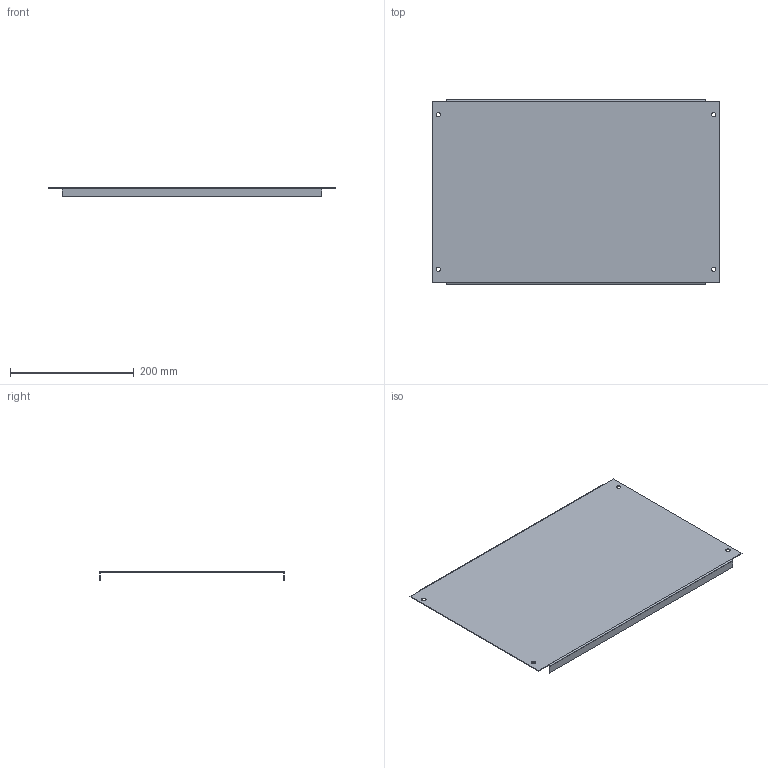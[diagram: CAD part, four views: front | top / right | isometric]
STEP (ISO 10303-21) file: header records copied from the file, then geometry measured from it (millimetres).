
FILE_DESCRIPTION (( 'STEP AP203' ), '1' );
FILE_NAME ('MB 30.50 Ïàíåëü ìîäóëüíàÿ.STEP', '2012-11-21T07:13:01', ( 'system' ), ( '' ), 'SwSTEP 2.0', 'SolidWorks 2012', '' );
FILE_SCHEMA (( 'CONFIG_CONTROL_DESIGN' ));
Length unit declared in the file: millimetre
Products named in the file (1): MB 30.50 Ïàíåëü ìîäóëüíàÿ
Bounding box: 465 x 299 x 15 mm (x, y, z)
Volume: 179492.7 mm3; surface area: 301156.2 mm2
Topology: 1 solids, 1 shells, 34 faces, 80 edges, 48 vertices
Faces by surface type: plane 22, cylinder 12
Entity records: 1053 total; most frequent: DIRECTION 174, CARTESIAN_POINT 163, ORIENTED_EDGE 160, EDGE_CURVE 80, AXIS2_PLACEMENT_3D 59, LINE 56, VECTOR 56, VERTEX_POINT 48
